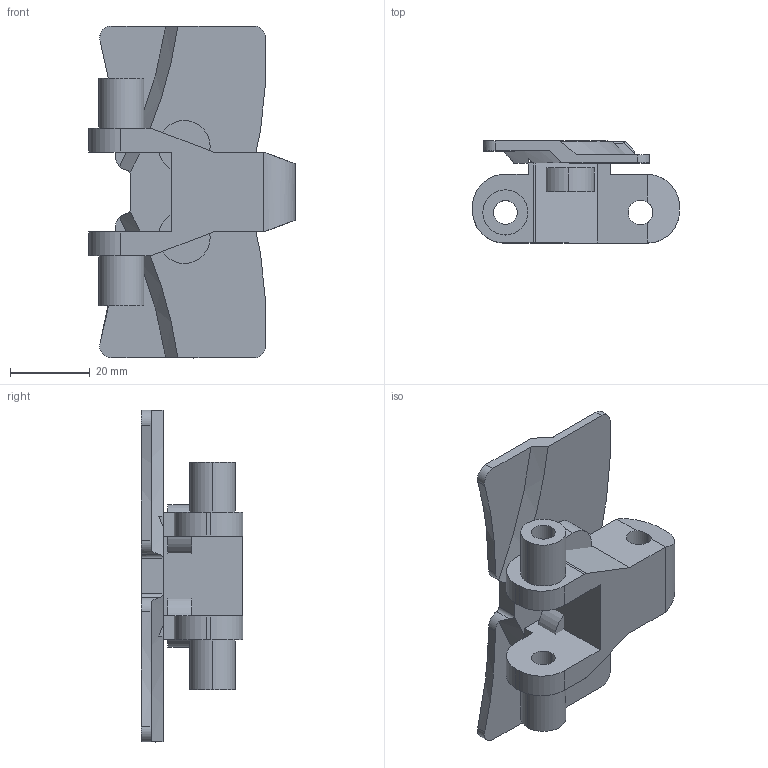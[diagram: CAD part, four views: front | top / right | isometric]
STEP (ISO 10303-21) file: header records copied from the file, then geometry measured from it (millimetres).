
FILE_DESCRIPTION (( 'STEP AP214' ), '1' );
FILE_NAME ('EMPC-5R.STEP', '2011-07-06T07:03:51', ( '.' ), ( '' ), 'SwSTEP 2.0', 'SolidWorks 2010', '' );
FILE_SCHEMA (( 'AUTOMOTIVE_DESIGN' ));
Length unit declared in the file: millimetre
Products named in the file (1): EMPC-5R
Bounding box: 51.7 x 25.5 x 83 mm (x, y, z)
Surface area: 14476.9 mm2 (no closed solid volume)
Topology: 0 solids, 6 shells, 93 faces, 254 edges, 168 vertices
Faces by surface type: plane 44, cylinder 39, cone 4, torus 4, bspline 2
Entity records: 4444 total; most frequent: CARTESIAN_POINT 1327, ORIENTED_EDGE 480, DIRECTION 435, EDGE_CURVE 254, VERTEX_POINT 168, AXIS2_PLACEMENT_3D 155, LINE 125, VECTOR 125
